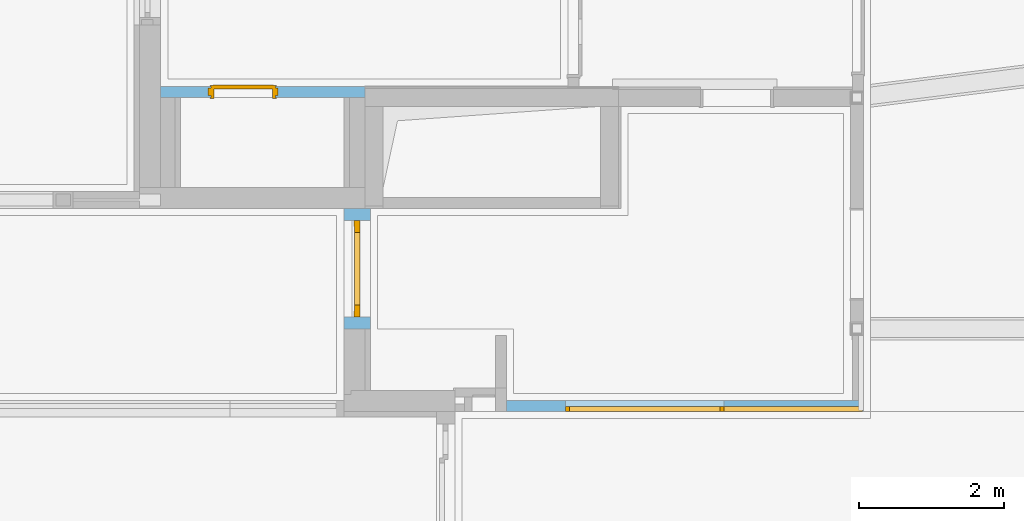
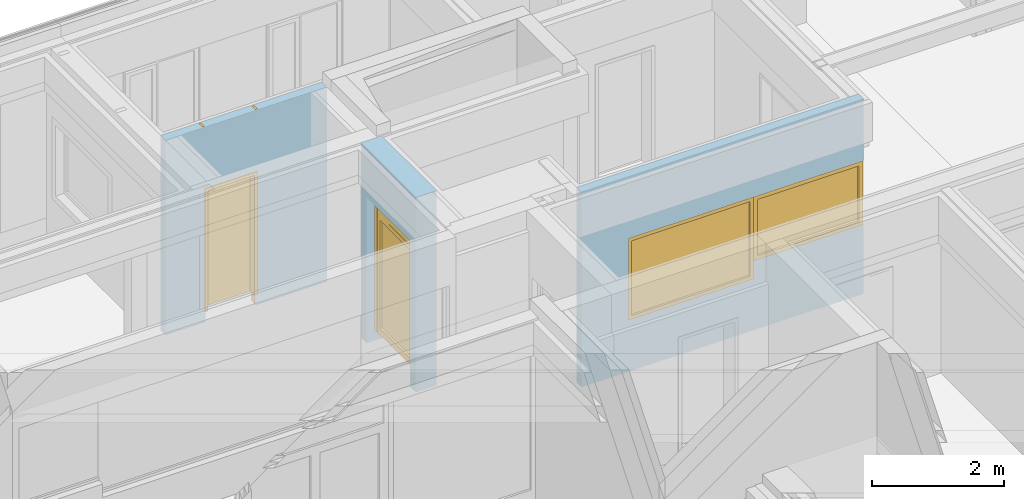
# One storey, part 97 of 207: 2 doors, 2 windows, 4 openings, plus 3 elements that do not belong to this part.
"""IFC4 building model written with IfcOpenShell, lengths in metres."""

from ifc_helpers import new_model, entity, si_unit, converted_unit, derived_unit, frame, frame_2d, origin, origin_with_axes, place, context, subcontext, project, spatial, polyline, rectangle, outline, extrude, closed_shell, open_shell, faceted_brep, surface_model, source, transform, mapped, material, type_object, element, fill, save


model = new_model("IFC4")

# Units and contexts
model_context = context("Model", 3, precision=1e-05, world=origin())
body_context = subcontext(model_context, "Body", "Model", "MODEL_VIEW")
ifc_project = project(units=[si_unit("LENGTHUNIT", "METRE"), si_unit("AREAUNIT", "SQUARE_METRE"), si_unit("VOLUMEUNIT", "CUBIC_METRE"), si_unit("MASSUNIT", "GRAM", prefix="KILO"), converted_unit("PLANEANGLEUNIT", "DEGREE", entity("IfcPlaneAngleMeasure", 0.0174532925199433), si_unit("PLANEANGLEUNIT", "RADIAN"), dimensions=[0, 0, 0, 0, 0, 0, 0]), derived_unit("THERMALTRANSMITTANCEUNIT", [(si_unit("POWERUNIT", "WATT"), 1), (si_unit("THERMODYNAMICTEMPERATUREUNIT", "KELVIN"), -1), (si_unit("LENGTHUNIT", "METRE"), -2)]), derived_unit("VOLUMETRICFLOWRATEUNIT", [(si_unit("LENGTHUNIT", "METRE"), 3), (converted_unit("TIMEUNIT", "hour", entity("IfcTimeMeasure", 3600.0), si_unit("TIMEUNIT", "SECOND"), dimensions=[0, 0, 1, 0, 0, 0, 0]), -1), (si_unit("LENGTHUNIT", "METRE"), -1)])], contexts=[model_context])

# Site, building, storey
site_placement = place(None, origin())
site = spatial("IfcSite", under=ifc_project, at=site_placement, Name="Psychiatrie Neubau Wunstorf", CompositionType="ELEMENT")
building_placement = place(site_placement, origin())
building = spatial("IfcBuilding", under=site, at=building_placement, Name="Neubau H2 Stationsgebäude", CompositionType="ELEMENT")
storey_placement = place(building_placement, frame((0.0, 0.0, -0.2)))
storey = spatial("IfcBuildingStorey", under=building, at=storey_placement, Name="H2 Ebene 0", CompositionType="ELEMENT", Elevation=-0.2)

# Wall, opening, door
ifc_material_1 = material(Name="WI-LB")
wall_1_placement = place(storey_placement, frame((58.5500000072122, 7.29999969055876, 0.0), z_axis=(0.0, 0.0, 1.0), x_axis=(-1.0, 0.0, 0.0)))
wall_1 = element("IfcWall", 1, at=wall_1_placement, inside=storey, material=ifc_material_1, context=body_context, shape_type="SweptSolid", body=[
    extrude(rectangle(XDim=2.8175, YDim=0.15, at=frame_2d((1.40875, 0.075), x_axis=(1.0, 0.0))), origin_with_axes(), (0.0, 0.0, 1.0), 3.6),
])
opening_1_placement = place(wall_1_placement, frame((2.1205, 0.15, 0.0), z_axis=(0.0, -1.0, 0.0), x_axis=(0.0, 0.0, 1.0)))
opening_1 = element("IfcOpeningElement", 2, at=opening_1_placement, cuts=wall_1, Name="Türöffnung", ObjectType="Opening", context=body_context, shape_type="SweptSolid", body=[
    extrude(outline(polyline([(2.46, 0.885), (2.46, 0.0), (0.0, 0.0), (0.0, 0.885), (2.46, 0.885)])), origin_with_axes(), (0.0, 0.0, 1.0), 0.15),
])
ifc_material_2 = material(Name="TI-1F-UZ-D-N")
door_type_1 = type_object("IfcDoorType", Name="SMT", OperationType="SINGLE_SWING_RIGHT", ParameterTakesPrecedence=False, PredefinedType="DOOR")
shared_shape_1 = source(origin_with_axes(), body_context, "Body", "Brep", [
    faceted_brep([(0.925, 0.025, 0.0), (0.925, 0.125, 0.0), (0.885, 0.125, 0.0), (0.885, 0.025, 0.0), (0.925, 0.125, 3.6), (0.925, 0.025, 3.6), (0.885, 0.025, 3.6), (0.885, 0.125, 3.6)], [[[0, 1, 2, 3]], [[4, 5, 6, 7]], [[1, 0, 5, 4]], [[2, 1, 4, 7]], [[3, 2, 7, 6]], [[0, 3, 6, 5]]], orient=[[False], [False], [False], [False], [False], [False]]),
    faceted_brep([(0.0, 0.025, 0.0), (0.0, 0.125, 0.0), (-0.04, 0.125, 0.0), (-0.04, 0.025, 0.0), (0.0, 0.125, 3.6), (0.0, 0.025, 3.6), (-0.04, 0.025, 3.6), (-0.04, 0.125, 3.6)], [[[0, 1, 2, 3]], [[4, 5, 6, 7]], [[1, 0, 5, 4]], [[2, 1, 4, 7]], [[3, 2, 7, 6]], [[0, 3, 6, 5]]], orient=[[False], [False], [False], [False], [False], [False]]),
    faceted_brep([(0.885, 0.025, 2.46), (0.885, 0.125, 2.46), (0.0, 0.125, 2.46), (0.0, 0.025, 2.46), (0.885, 0.125, 2.5), (0.885, 0.025, 2.5), (0.0, 0.025, 2.5), (0.0, 0.125, 2.5)], [[[0, 1, 2, 3]], [[4, 5, 6, 7]], [[1, 0, 5, 4]], [[2, 1, 4, 7]], [[3, 2, 7, 6]], [[0, 3, 6, 5]]], orient=[[False], [False], [False], [False], [False], [False]]),
])
shared_shape_2 = source(origin_with_axes(), body_context, "Body", "Brep", [
    faceted_brep([(0.0, -0.015, 2.46), (0.04, -0.015, 2.46), (0.04, -0.015, 0.2), (0.0, -0.015, 0.2), (0.0, 0.165, 0.2), (0.04, 0.165, 0.2), (0.04, 0.165, 2.46), (0.0, 0.165, 2.46)], [[[0, 1, 2, 3]], [[4, 5, 6, 7]], [[3, 4, 7, 0]], [[2, 5, 4, 3]], [[1, 6, 5, 2]], [[0, 7, 6, 1]]], orient=[[False], [False], [False], [False], [False], [False]]),
    faceted_brep([(0.0, -0.015, 2.475), (0.0, -0.015, 0.2), (-0.015, -0.015, 0.2), (-0.015, -0.015, 2.475), (0.0, 0.0, 0.2), (0.0, 0.0, 2.475), (-0.015, 0.0, 2.475), (-0.015, 0.0, 0.2)], [[[0, 1, 2, 3]], [[4, 5, 6, 7]], [[1, 0, 5, 4]], [[2, 1, 4, 7]], [[3, 2, 7, 6]], [[0, 3, 6, 5]]], orient=[[False], [False], [False], [False], [False], [False]]),
    faceted_brep([(0.0, 0.15, 2.475), (0.0, 0.15, 0.2), (-0.015, 0.15, 0.2), (-0.015, 0.15, 2.475), (0.0, 0.165, 0.2), (0.0, 0.165, 2.475), (-0.015, 0.165, 2.475), (-0.015, 0.165, 0.2)], [[[0, 1, 2, 3]], [[4, 5, 6, 7]], [[1, 0, 5, 4]], [[2, 1, 4, 7]], [[3, 2, 7, 6]], [[0, 3, 6, 5]]], orient=[[False], [False], [False], [False], [False], [False]]),
    faceted_brep([(0.845, -0.015, 2.46), (0.885, -0.015, 2.46), (0.885, -0.015, 0.2), (0.845, -0.015, 0.2), (0.845, 0.165, 0.2), (0.885, 0.165, 0.2), (0.885, 0.165, 2.46), (0.845, 0.165, 2.46)], [[[0, 1, 2, 3]], [[4, 5, 6, 7]], [[3, 4, 7, 0]], [[2, 5, 4, 3]], [[1, 6, 5, 2]], [[0, 7, 6, 1]]], orient=[[False], [False], [False], [False], [False], [False]]),
    faceted_brep([(0.885, -0.015, 2.475), (0.9, -0.015, 2.475), (0.9, -0.015, 0.2), (0.885, -0.015, 0.2), (0.885, 0.0, 0.2), (0.9, 0.0, 0.2), (0.9, 0.0, 2.475), (0.885, 0.0, 2.475)], [[[0, 1, 2, 3]], [[4, 5, 6, 7]], [[3, 4, 7, 0]], [[2, 5, 4, 3]], [[1, 6, 5, 2]], [[0, 7, 6, 1]]], orient=[[False], [False], [False], [False], [False], [False]]),
    faceted_brep([(0.885, 0.15, 2.475), (0.9, 0.15, 2.475), (0.9, 0.15, 0.2), (0.885, 0.15, 0.2), (0.885, 0.165, 0.2), (0.9, 0.165, 0.2), (0.9, 0.165, 2.475), (0.885, 0.165, 2.475)], [[[0, 1, 2, 3]], [[4, 5, 6, 7]], [[3, 4, 7, 0]], [[2, 5, 4, 3]], [[1, 6, 5, 2]], [[0, 7, 6, 1]]], orient=[[False], [False], [False], [False], [False], [False]]),
    faceted_brep([(0.04, -0.015, 2.46), (0.845, -0.015, 2.46), (0.845, -0.015, 2.42), (0.04, -0.015, 2.42), (0.04, 0.165, 2.42), (0.845, 0.165, 2.42), (0.845, 0.165, 2.46), (0.04, 0.165, 2.46)], [[[0, 1, 2, 3]], [[4, 5, 6, 7]], [[3, 4, 7, 0]], [[2, 5, 4, 3]], [[1, 6, 5, 2]], [[0, 7, 6, 1]]], orient=[[False], [False], [False], [False], [False], [False]]),
    faceted_brep([(0.0, -0.015, 2.475), (0.885, -0.015, 2.475), (0.885, -0.015, 2.46), (0.0, -0.015, 2.46), (0.0, 0.0, 2.46), (0.885, 0.0, 2.46), (0.885, 0.0, 2.475), (0.0, 0.0, 2.475)], [[[0, 1, 2, 3]], [[4, 5, 6, 7]], [[3, 4, 7, 0]], [[2, 5, 4, 3]], [[1, 6, 5, 2]], [[0, 7, 6, 1]]], orient=[[False], [False], [False], [False], [False], [False]]),
    faceted_brep([(0.0, 0.15, 2.475), (0.885, 0.15, 2.475), (0.885, 0.15, 2.46), (0.0, 0.15, 2.46), (0.0, 0.165, 2.46), (0.885, 0.165, 2.46), (0.885, 0.165, 2.475), (0.0, 0.165, 2.475)], [[[0, 1, 2, 3]], [[4, 5, 6, 7]], [[3, 4, 7, 0]], [[2, 5, 4, 3]], [[1, 6, 5, 2]], [[0, 7, 6, 1]]], orient=[[False], [False], [False], [False], [False], [False]]),
    faceted_brep([(0.025, 0.116, 2.435), (0.86, 0.116, 2.435), (0.86, 0.116, 0.2), (0.025, 0.116, 0.2), (0.025, 0.166, 0.2), (0.86, 0.166, 0.2), (0.86, 0.166, 2.435), (0.025, 0.166, 2.435)], [[[0, 1, 2, 3]], [[4, 5, 6, 7]], [[3, 4, 7, 0]], [[2, 5, 4, 3]], [[1, 6, 5, 2]], [[0, 7, 6, 1]]], orient=[[False], [False], [False], [False], [False], [False]]),
])
door_1_placement = place(opening_1_placement, frame((0.0, 0.0, 0.0), z_axis=(1.0, 0.0, 0.0), x_axis=(0.0, 1.0, 0.0)))
door_1 = element("IfcDoor", 3, at=door_1_placement, inside=storey, type_object=door_type_1, material=ifc_material_2, Name="SMT", OverallHeight=2.46, OverallWidth=0.885, context=body_context, shape_type="MappedRepresentation", body=[
    mapped(shared_shape_1, transform((0.0, 0.0, 0.0), x_axis=(1.0, 0.0, 0.0), y_axis=(0.0, 1.0, 0.0), z_axis=(0.0, 0.0, 1.0), scale=1.0)),
    mapped(shared_shape_2, transform((0.0, 0.0, 0.0), x_axis=(1.0, 0.0, 0.0), y_axis=(0.0, 1.0, 0.0), z_axis=(0.0, 0.0, 1.0), scale=1.0)),
])
fill(opening_1, door_1)

# Wall, openings, windows
ifc_material_3 = material(Name="WI-RIR")
wall_2_placement = place(storey_placement, frame((60.5000000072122, 2.81762600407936, 0.0), z_axis=(0.0, 0.0, 1.0), x_axis=(0.999999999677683, -2.5389652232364e-05, 0.0)))
wall_2 = element("IfcWall", 4, at=wall_2_placement, inside=storey, material=ifc_material_3, context=body_context, shape_type="SweptSolid", body=[
    extrude(outline(polyline([(0.0, 0.000125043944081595), (4.92499632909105, 0.000125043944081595), (4.92499252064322, 0.150125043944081), (0.0, 0.150125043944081), (0.0, 0.000125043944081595)])), frame((0.0, -0.000125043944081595, 0.0), z_axis=(0.0, 0.0, 1.0), x_axis=(1.0, 0.0, 0.0)), (0.0, 0.0, 1.0), 3.6),
])
opening_2_placement = place(wall_2_placement, frame((3.00236463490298, 0.0, 1.28), z_axis=(0.0, 0.0, 1.0), x_axis=(1.0, 8.90506778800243e-16, 0.0)))
opening_2 = element("IfcOpeningElement", 5, at=opening_2_placement, cuts=wall_2, Name="Fensteröffnung", ObjectType="Opening", context=body_context, shape_type="SweptSolid", body=[
    extrude(outline(polyline([(0.0, 0.0), (1.9226316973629, 0.0), (1.92262788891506, 0.149999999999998), (0.0, 0.150000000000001), (0.0, 0.0)])), origin_with_axes(), (0.0, 0.0, 1.0), 1.18),
])
opening_3_placement = place(wall_2_placement, frame((0.817618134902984, 0.0, 0.950000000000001), z_axis=(-1.88113820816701e-12, 1.0, 0.0), x_axis=(0.0, 0.0, 1.0)))
opening_3 = element("IfcOpeningElement", 6, at=opening_3_placement, cuts=wall_2, Name="Fensteröffnung", ObjectType="Opening", context=body_context, shape_type="SweptSolid", body=[
    extrude(outline(polyline([(1.51, 2.1847465), (1.51, 0.0), (0.0, 0.0), (0.0, 2.1847465), (1.51, 2.1847465)])), origin_with_axes(), (0.0, 0.0, 1.0), 0.15),
])
shared_shape_3 = source(origin_with_axes(), body_context, "Body", "SurfaceModel", [
    surface_model("IfcShellBasedSurfaceModel", [(0.0, 0.0, 0.0), (0.0, 0.0, 1.18), (0.07, 0.0, 1.18), (0.07, 0.0, 0.0), (0.07, 0.07, 1.18), (0.07, 0.07, 0.0), (0.0, 0.07, 1.18), (0.0, 0.07, 0.0)], [closed_shell([[[0, 1, 2, 3]], [[3, 2, 4, 5]], [[5, 4, 6, 7]], [[7, 6, 1, 0]], [[0, 3, 5, 7]], [[1, 6, 4, 2]]], orient=[[False], [False], [False], [False], [False], [False]])]),
    surface_model("IfcShellBasedSurfaceModel", [(1.84263144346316, 0.0, 0.0), (1.84263144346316, 0.0, 1.18), (1.91263144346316, 0.0, 1.18), (1.91263144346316, 0.0, 0.0), (1.91263144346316, 0.07, 1.18), (1.91263144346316, 0.07, 0.0), (1.84263144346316, 0.07, 1.18), (1.84263144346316, 0.07, 0.0)], [closed_shell([[[0, 1, 2, 3]], [[3, 2, 4, 5]], [[5, 4, 6, 7]], [[7, 6, 1, 0]], [[0, 3, 5, 7]], [[1, 6, 4, 2]]], orient=[[False], [False], [False], [False], [False], [False]])]),
    surface_model("IfcShellBasedSurfaceModel", [(0.07, 0.07, 0.0), (0.07, 0.0, 0.0), (1.84263144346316, 0.0, 0.0), (1.84263144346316, 0.07, 0.0), (0.07, 0.0, 0.07), (0.07, 0.07, 0.07), (1.84263144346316, 0.07, 0.07), (1.84263144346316, 0.0, 0.07)], [closed_shell([[[0, 1, 2, 3]], [[4, 5, 6, 7]], [[1, 0, 5, 4]], [[2, 1, 4, 7]], [[3, 2, 7, 6]], [[0, 3, 6, 5]]], orient=[[False], [False], [False], [False], [False], [False]])]),
    surface_model("IfcShellBasedSurfaceModel", [(0.07, 0.07, 1.11), (0.07, 0.0, 1.11), (1.84263144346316, 0.0, 1.11), (1.84263144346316, 0.07, 1.11), (0.07, 0.0, 1.18), (0.07, 0.07, 1.18), (1.84263144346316, 0.07, 1.18), (1.84263144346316, 0.0, 1.18)], [closed_shell([[[0, 1, 2, 3]], [[4, 5, 6, 7]], [[1, 0, 5, 4]], [[2, 1, 4, 7]], [[3, 2, 7, 6]], [[0, 3, 6, 5]]], orient=[[False], [False], [False], [False], [False], [False]])]),
    surface_model("IfcShellBasedSurfaceModel", [(0.07, 0.035, 0.07), (1.84263144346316, 0.035, 0.07), (1.84263144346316, 0.035, 1.11), (0.07, 0.035, 1.11)], [open_shell([[[0, 1, 2, 3]]], orient=[[False]])]),
])
window_1_placement = place(opening_2_placement, frame((0.0, 0.07, 0.0), z_axis=(0.0, 0.0, 1.0), x_axis=(1.0, -3.41062898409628e-16, 0.0)))
window_1 = element("IfcWindow", 7, at=window_1_placement, inside=storey, Name="wi_1c_white", OverallHeight=1.18, OverallWidth=1.91263, PartitioningType="USERDEFINED", PredefinedType="WINDOW", context=body_context, shape_type="MappedRepresentation", body=[
    mapped(shared_shape_3, transform((0.0, 0.0, 0.0), x_axis=(1.0, 0.0, 0.0), y_axis=(0.0, -1.0, 0.0), z_axis=(0.0, 0.0, 1.0), scale=1.0)),
])
fill(opening_2, window_1)
shared_shape_4 = source(origin_with_axes(), body_context, "Body", "SurfaceModel", [
    surface_model("IfcShellBasedSurfaceModel", [(0.0, 0.0, 0.0), (0.0, 0.0, 1.18), (0.05, 0.0, 1.18), (0.05, 0.0, 0.0), (0.05, 0.05, 1.18), (0.05, 0.05, 0.0), (0.0, 0.05, 1.18), (0.0, 0.05, 0.0)], [closed_shell([[[0, 1, 2, 3]], [[3, 2, 4, 5]], [[5, 4, 6, 7]], [[7, 6, 1, 0]], [[0, 3, 5, 7]], [[1, 6, 4, 2]]], orient=[[False], [False], [False], [False], [False], [False]])]),
    surface_model("IfcShellBasedSurfaceModel", [(1.86263144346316, 0.0, 0.0), (1.86263144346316, 0.0, 1.18), (1.91263144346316, 0.0, 1.18), (1.91263144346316, 0.0, 0.0), (1.91263144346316, 0.05, 1.18), (1.91263144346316, 0.05, 0.0), (1.86263144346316, 0.05, 1.18), (1.86263144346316, 0.05, 0.0)], [closed_shell([[[0, 1, 2, 3]], [[3, 2, 4, 5]], [[5, 4, 6, 7]], [[7, 6, 1, 0]], [[0, 3, 5, 7]], [[1, 6, 4, 2]]], orient=[[False], [False], [False], [False], [False], [False]])]),
    surface_model("IfcShellBasedSurfaceModel", [(0.05, 0.05, 0.0), (0.05, 0.0, 0.0), (1.86263144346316, 0.0, 0.0), (1.86263144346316, 0.05, 0.0), (0.05, 0.0, 0.05), (0.05, 0.05, 0.05), (1.86263144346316, 0.05, 0.05), (1.86263144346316, 0.0, 0.05)], [closed_shell([[[0, 1, 2, 3]], [[4, 5, 6, 7]], [[1, 0, 5, 4]], [[2, 1, 4, 7]], [[3, 2, 7, 6]], [[0, 3, 6, 5]]], orient=[[False], [False], [False], [False], [False], [False]])]),
    surface_model("IfcShellBasedSurfaceModel", [(0.05, 0.05, 1.13), (0.05, 0.0, 1.13), (1.86263144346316, 0.0, 1.13), (1.86263144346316, 0.05, 1.13), (0.05, 0.0, 1.18), (0.05, 0.05, 1.18), (1.86263144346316, 0.05, 1.18), (1.86263144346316, 0.0, 1.18)], [closed_shell([[[0, 1, 2, 3]], [[4, 5, 6, 7]], [[1, 0, 5, 4]], [[2, 1, 4, 7]], [[3, 2, 7, 6]], [[0, 3, 6, 5]]], orient=[[False], [False], [False], [False], [False], [False]])]),
    surface_model("IfcShellBasedSurfaceModel", [(0.05, 0.025, 0.05), (1.86263144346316, 0.025, 0.05), (1.86263144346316, 0.025, 1.13), (0.05, 0.025, 1.13)], [open_shell([[[0, 1, 2, 3]]], orient=[[False]])]),
])
window_2_placement = place(opening_3_placement, frame((0.0, 0.0, 0.0699999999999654), z_axis=(1.27966101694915, 0.0, 0.0), x_axis=(0.0, 1.14227260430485, -2.14865229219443e-12)))
window_2 = element("IfcWindow", 8, at=window_2_placement, inside=storey, Name="wi_1c_white", OverallHeight=1.51, OverallWidth=2.18475, PartitioningType="USERDEFINED", PredefinedType="WINDOW", context=body_context, shape_type="MappedRepresentation", body=[
    mapped(shared_shape_4, transform((0.0, 0.0, 0.0), x_axis=(1.0, 0.0, 0.0), y_axis=(0.0, -1.0, 0.0), z_axis=(0.0, 0.0, 1.0), scale=1.14227260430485, scale2=1.3999999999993, scale3=1.27966101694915, uniform=False)),
])
fill(opening_3, window_2)

# Wall, opening, door
ifc_material_4 = material(Name="WI-LW 60")
wall_3_placement = place(storey_placement, frame((58.2600000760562, 5.61747697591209, 0.0), z_axis=(0.0, 0.0, 1.0), x_axis=(0.0, -1.0, 0.0)))
wall_3 = element("IfcWall", 9, at=wall_3_placement, inside=storey, material=ifc_material_4, context=body_context, shape_type="SweptSolid", body=[
    extrude(rectangle(XDim=1.66499978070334, YDim=0.365, at=frame_2d((0.832499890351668, 0.1825), x_axis=(1.0, 0.0))), origin_with_axes(), (0.0, 0.0, 1.0), 3.6),
])
opening_4_placement = place(wall_3_placement, frame((1.49499971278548, 0.365, 0.0), z_axis=(0.0, -1.0, 0.0), x_axis=(0.0, 0.0, 1.0)))
opening_4 = element("IfcOpeningElement", 10, at=opening_4_placement, cuts=wall_3, Name="Türöffnung", ObjectType="Opening", context=body_context, shape_type="SweptSolid", body=[
    extrude(outline(polyline([(2.7, 1.32502470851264), (2.7, 0.0), (0.0, 0.0), (0.0, 1.32502470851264), (2.7, 1.32502470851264)])), origin_with_axes(), (0.0, 0.0, 1.0), 0.365),
])
door_type_2 = type_object("IfcDoorType", Name="TGR 1.5", OperationType="NOTDEFINED", ParameterTakesPrecedence=False, PredefinedType="DOOR")
shared_shape_5 = source(origin_with_axes(), body_context, "Body", "Brep", [
    faceted_brep([(1.43252470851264, 0.145000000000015, 0.0), (1.43252470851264, 0.305000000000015, 0.0), (1.35252470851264, 0.305000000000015, 0.0), (1.35252470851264, 0.145000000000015, 0.0), (1.43252470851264, 0.305000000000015, 3.6), (1.43252470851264, 0.145000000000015, 3.6), (1.35252470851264, 0.145000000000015, 3.6), (1.35252470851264, 0.305000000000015, 3.6)], [[[0, 1, 2, 3]], [[4, 5, 6, 7]], [[1, 0, 5, 4]], [[2, 1, 4, 7]], [[3, 2, 7, 6]], [[0, 3, 6, 5]]], orient=[[False], [False], [False], [False], [False], [False]]),
    faceted_brep([(-0.0275000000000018, 0.145000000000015, 0.0), (-0.0275000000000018, 0.305000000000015, 0.0), (-0.107500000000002, 0.305000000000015, 0.0), (-0.107500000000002, 0.145000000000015, 0.0), (-0.0275000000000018, 0.305000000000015, 3.6), (-0.0275000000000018, 0.145000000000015, 3.6), (-0.107500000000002, 0.145000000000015, 3.6), (-0.107500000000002, 0.305000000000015, 3.6)], [[[0, 1, 2, 3]], [[4, 5, 6, 7]], [[1, 0, 5, 4]], [[2, 1, 4, 7]], [[3, 2, 7, 6]], [[0, 3, 6, 5]]], orient=[[False], [False], [False], [False], [False], [False]]),
    faceted_brep([(1.35252470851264, 0.145000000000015, 2.7275), (1.35252470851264, 0.305000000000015, 2.7275), (-0.0275000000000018, 0.305000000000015, 2.7275), (-0.0275000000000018, 0.145000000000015, 2.7275), (1.35252470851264, 0.305000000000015, 2.8075), (1.35252470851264, 0.145000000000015, 2.8075), (-0.0275000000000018, 0.145000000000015, 2.8075), (-0.0275000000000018, 0.305000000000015, 2.8075)], [[[0, 1, 2, 3]], [[4, 5, 6, 7]], [[1, 0, 5, 4]], [[2, 1, 4, 7]], [[3, 2, 7, 6]], [[0, 3, 6, 5]]], orient=[[False], [False], [False], [False], [False], [False]]),
])
shared_shape_6 = source(origin_with_axes(), body_context, "Body", "SurfaceModel", [
    surface_model("IfcShellBasedSurfaceModel", [(0.0, 0.222500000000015, 2.7), (0.0, 0.222500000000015, 0.2), (0.0799999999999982, 0.222500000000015, 0.2), (0.0799999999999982, 0.222500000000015, 2.7), (0.0, 0.142500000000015, 0.2), (0.0, 0.142500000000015, 2.7), (0.0799999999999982, 0.142500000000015, 2.7), (0.0799999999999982, 0.142500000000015, 0.2)], [closed_shell([[[0, 1, 2, 3]], [[4, 5, 6, 7]], [[1, 0, 5, 4]], [[2, 1, 4, 7]], [[3, 2, 7, 6]], [[0, 3, 6, 5]]], orient=[[False], [False], [False], [False], [False], [False]])]),
    surface_model("IfcShellBasedSurfaceModel", [(1.24502470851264, 0.222500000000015, 2.7), (1.24502470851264, 0.222500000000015, 0.2), (1.32502470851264, 0.222500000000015, 0.2), (1.32502470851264, 0.222500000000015, 2.7), (1.24502470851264, 0.142500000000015, 0.2), (1.24502470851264, 0.142500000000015, 2.7), (1.32502470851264, 0.142500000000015, 2.7), (1.32502470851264, 0.142500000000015, 0.2)], [closed_shell([[[0, 1, 2, 3]], [[4, 5, 6, 7]], [[1, 0, 5, 4]], [[2, 1, 4, 7]], [[3, 2, 7, 6]], [[0, 3, 6, 5]]], orient=[[False], [False], [False], [False], [False], [False]])]),
    surface_model("IfcShellBasedSurfaceModel", [(0.0799999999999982, 0.222500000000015, 2.7), (0.0799999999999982, 0.222500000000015, 2.62), (1.24502470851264, 0.222500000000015, 2.62), (1.24502470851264, 0.222500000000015, 2.7), (0.0799999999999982, 0.142500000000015, 2.62), (0.0799999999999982, 0.142500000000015, 2.7), (1.24502470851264, 0.142500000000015, 2.7), (1.24502470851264, 0.142500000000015, 2.62)], [closed_shell([[[0, 1, 2, 3]], [[4, 5, 6, 7]], [[1, 0, 5, 4]], [[2, 1, 4, 7]], [[3, 2, 7, 6]], [[0, 3, 6, 5]]], orient=[[False], [False], [False], [False], [False], [False]])]),
    surface_model("IfcShellBasedSurfaceModel", [(0.0799999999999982, 0.217500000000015, 2.521), (0.0799999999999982, 0.217500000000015, 2.401), (1.24502470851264, 0.217500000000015, 2.401), (1.24502470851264, 0.217500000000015, 2.521), (0.0799999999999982, 0.147500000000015, 2.401), (0.0799999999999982, 0.147500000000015, 2.521), (1.24502470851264, 0.147500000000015, 2.521), (1.24502470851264, 0.147500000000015, 2.401)], [closed_shell([[[0, 1, 2, 3]], [[4, 5, 6, 7]], [[1, 0, 5, 4]], [[2, 1, 4, 7]], [[3, 2, 7, 6]], [[0, 3, 6, 5]]], orient=[[False], [False], [False], [False], [False], [False]])]),
    surface_model("IfcShellBasedSurfaceModel", [(0.0799999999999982, 0.217500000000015, 2.62), (0.0799999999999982, 0.217500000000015, 2.521), (0.149999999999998, 0.217500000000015, 2.521), (0.149999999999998, 0.217500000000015, 2.62), (0.0799999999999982, 0.147500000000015, 2.521), (0.0799999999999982, 0.147500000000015, 2.62), (0.149999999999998, 0.147500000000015, 2.62), (0.149999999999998, 0.147500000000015, 2.521)], [closed_shell([[[0, 1, 2, 3]], [[4, 5, 6, 7]], [[1, 0, 5, 4]], [[2, 1, 4, 7]], [[3, 2, 7, 6]], [[0, 3, 6, 5]]], orient=[[False], [False], [False], [False], [False], [False]])]),
    surface_model("IfcShellBasedSurfaceModel", [(1.17502470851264, 0.217500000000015, 2.62), (1.17502470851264, 0.217500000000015, 2.521), (1.24502470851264, 0.217500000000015, 2.521), (1.24502470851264, 0.217500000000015, 2.62), (1.17502470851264, 0.147500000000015, 2.521), (1.17502470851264, 0.147500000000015, 2.62), (1.24502470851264, 0.147500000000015, 2.62), (1.24502470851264, 0.147500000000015, 2.521)], [closed_shell([[[0, 1, 2, 3]], [[4, 5, 6, 7]], [[1, 0, 5, 4]], [[2, 1, 4, 7]], [[3, 2, 7, 6]], [[0, 3, 6, 5]]], orient=[[False], [False], [False], [False], [False], [False]])]),
    surface_model("IfcShellBasedSurfaceModel", [(0.149999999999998, 0.217500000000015, 2.62), (0.149999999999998, 0.217500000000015, 2.55), (1.17502470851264, 0.217500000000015, 2.55), (1.17502470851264, 0.217500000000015, 2.62), (0.149999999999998, 0.147500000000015, 2.55), (0.149999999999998, 0.147500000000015, 2.62), (1.17502470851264, 0.147500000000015, 2.62), (1.17502470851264, 0.147500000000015, 2.55)], [closed_shell([[[0, 1, 2, 3]], [[4, 5, 6, 7]], [[1, 0, 5, 4]], [[2, 1, 4, 7]], [[3, 2, 7, 6]], [[0, 3, 6, 5]]], orient=[[False], [False], [False], [False], [False], [False]])]),
    surface_model("IfcShellBasedSurfaceModel", [(0.149999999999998, 0.182500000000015, 2.521), (1.17502470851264, 0.182500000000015, 2.521), (1.17502470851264, 0.182500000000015, 2.55), (0.149999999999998, 0.182500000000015, 2.55)], [open_shell([[[0, 1, 2, 3]]], orient=[[False]])]),
    surface_model("IfcShellBasedSurfaceModel", [(0.0799999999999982, 0.221500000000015, 2.4), (0.0799999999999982, 0.221500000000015, 0.2), (0.159999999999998, 0.221500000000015, 0.2), (0.159999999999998, 0.221500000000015, 2.4), (0.0799999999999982, 0.141500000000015, 0.2), (0.0799999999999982, 0.141500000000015, 2.4), (0.159999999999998, 0.141500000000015, 2.4), (0.159999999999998, 0.141500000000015, 0.2)], [closed_shell([[[0, 1, 2, 3]], [[4, 5, 6, 7]], [[1, 0, 5, 4]], [[2, 1, 4, 7]], [[3, 2, 7, 6]], [[0, 3, 6, 5]]], orient=[[False], [False], [False], [False], [False], [False]])]),
    surface_model("IfcShellBasedSurfaceModel", [(1.16502470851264, 0.221500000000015, 2.4), (1.16502470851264, 0.221500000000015, 0.2), (1.24502470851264, 0.221500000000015, 0.2), (1.24502470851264, 0.221500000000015, 2.4), (1.16502470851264, 0.141500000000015, 0.2), (1.16502470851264, 0.141500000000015, 2.4), (1.24502470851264, 0.141500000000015, 2.4), (1.24502470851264, 0.141500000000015, 0.2)], [closed_shell([[[0, 1, 2, 3]], [[4, 5, 6, 7]], [[1, 0, 5, 4]], [[2, 1, 4, 7]], [[3, 2, 7, 6]], [[0, 3, 6, 5]]], orient=[[False], [False], [False], [False], [False], [False]])]),
    surface_model("IfcShellBasedSurfaceModel", [(0.159999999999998, 0.221500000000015, 0.32), (0.159999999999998, 0.221500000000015, 0.2), (1.16502470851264, 0.221500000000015, 0.2), (1.16502470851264, 0.221500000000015, 0.32), (0.159999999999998, 0.141500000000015, 0.2), (0.159999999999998, 0.141500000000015, 0.32), (1.16502470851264, 0.141500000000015, 0.32), (1.16502470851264, 0.141500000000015, 0.2)], [closed_shell([[[0, 1, 2, 3]], [[4, 5, 6, 7]], [[1, 0, 5, 4]], [[2, 1, 4, 7]], [[3, 2, 7, 6]], [[0, 3, 6, 5]]], orient=[[False], [False], [False], [False], [False], [False]])]),
    surface_model("IfcShellBasedSurfaceModel", [(0.159999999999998, 0.221500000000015, 2.4), (0.159999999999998, 0.221500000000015, 2.32), (1.16502470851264, 0.221500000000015, 2.32), (1.16502470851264, 0.221500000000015, 2.4), (0.159999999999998, 0.141500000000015, 2.32), (0.159999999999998, 0.141500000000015, 2.4), (1.16502470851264, 0.141500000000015, 2.4), (1.16502470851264, 0.141500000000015, 2.32)], [closed_shell([[[0, 1, 2, 3]], [[4, 5, 6, 7]], [[1, 0, 5, 4]], [[2, 1, 4, 7]], [[3, 2, 7, 6]], [[0, 3, 6, 5]]], orient=[[False], [False], [False], [False], [False], [False]])]),
    surface_model("IfcShellBasedSurfaceModel", [(0.159999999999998, 0.181500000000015, 0.32), (1.16502470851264, 0.181500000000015, 0.32), (1.16502470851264, 0.181500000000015, 2.32), (0.159999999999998, 0.181500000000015, 2.32)], [open_shell([[[0, 1, 2, 3]]], orient=[[False]])]),
])
door_2_placement = place(opening_4_placement, frame((0.0, 0.0, 0.0), z_axis=(1.0, 0.0, 0.0), x_axis=(0.0, 1.0, 0.0)))
door_2 = element("IfcDoor", 11, at=door_2_placement, inside=storey, type_object=door_type_2, Name="TGR 1.5", OverallHeight=2.7, OverallWidth=1.32502, context=body_context, shape_type="MappedRepresentation", body=[
    mapped(shared_shape_5, transform((0.0, 0.0, 0.0), x_axis=(1.0, 0.0, 0.0), y_axis=(0.0, 1.0, 0.0), z_axis=(0.0, 0.0, 1.0), scale=1.0)),
    mapped(shared_shape_6, transform((0.0, 0.0, 0.0), x_axis=(1.0, 0.0, 0.0), y_axis=(0.0, 1.0, 0.0), z_axis=(0.0, 0.0, 1.0), scale=1.0)),
])
fill(opening_4, door_2)

save(model, "model.ifc")
